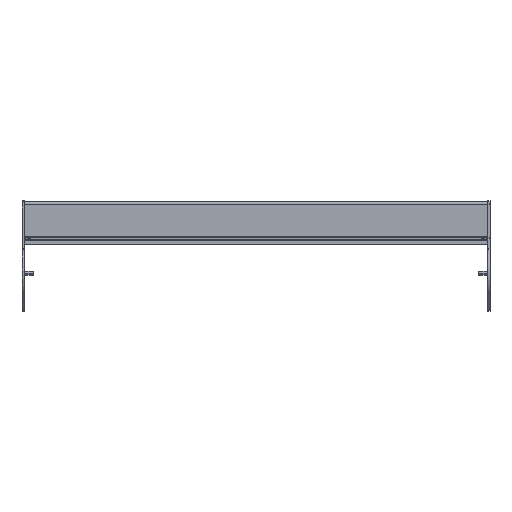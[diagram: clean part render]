
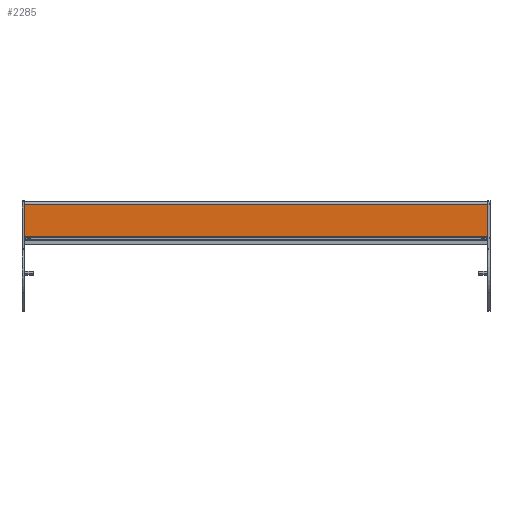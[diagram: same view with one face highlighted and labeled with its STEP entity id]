
A CAD part, top view. The second image highlights one B-rep face of the part: STEP entity #2285.
In plain terms, the highlighted planar face has unit normal (0, 0, 1) as drawn and (1, 0, 0) by its records, which use the part's own axes.
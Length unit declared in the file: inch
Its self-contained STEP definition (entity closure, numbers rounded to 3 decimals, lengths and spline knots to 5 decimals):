
#197=DIRECTION('',(0.,1.,0.));
#198=VECTOR('',#197,1.81445);
#199=CARTESIAN_POINT('',(0.683,-0.84545,-13.118));
#200=LINE('',#199,#198);
#303=DIRECTION('',(0.,1.,0.));
#304=VECTOR('',#303,1.81445);
#305=CARTESIAN_POINT('',(0.683,-0.84545,13.118));
#306=LINE('',#305,#304);
#646=DIRECTION('',(0.,0.,1.));
#647=VECTOR('',#646,26.236);
#648=CARTESIAN_POINT('',(0.683,0.969,-13.118));
#649=LINE('',#648,#647);
#659=DIRECTION('',(0.,0.,-1.));
#660=VECTOR('',#659,26.236);
#661=CARTESIAN_POINT('',(0.683,-0.84545,13.118));
#662=LINE('',#661,#660);
#1270=CARTESIAN_POINT('',(0.683,-0.84545,-13.118));
#1271=CARTESIAN_POINT('',(0.683,0.969,-13.118));
#1272=VERTEX_POINT('',#1270);
#1273=VERTEX_POINT('',#1271);
#1274=CARTESIAN_POINT('',(0.683,-0.84545,13.118));
#1275=CARTESIAN_POINT('',(0.683,0.969,13.118));
#1276=VERTEX_POINT('',#1274);
#1277=VERTEX_POINT('',#1275);
#2273=CARTESIAN_POINT('',(0.683,-0.86334,-13.118));
#2274=DIRECTION('',(1.,0.,0.));
#2275=DIRECTION('',(0.,1.,0.));
#2276=AXIS2_PLACEMENT_3D('',#2273,#2274,#2275);
#2277=PLANE('',#2276);
#2278=ORIENTED_EDGE('',*,*,#1631,.F.);
#2280=ORIENTED_EDGE('',*,*,#2279,.F.);
#2281=ORIENTED_EDGE('',*,*,#1734,.T.);
#2282=ORIENTED_EDGE('',*,*,#2266,.F.);
#2283=EDGE_LOOP('',(#2278,#2280,#2281,#2282));
#2284=FACE_OUTER_BOUND('',#2283,.F.);
#1631=EDGE_CURVE('',#1272,#1273,#200,.T.);
#1734=EDGE_CURVE('',#1276,#1277,#306,.T.);
#2266=EDGE_CURVE('',#1273,#1277,#649,.T.);
#2279=EDGE_CURVE('',#1276,#1272,#662,.T.);
#2285=ADVANCED_FACE('',(#2284),#2277,.T.);
